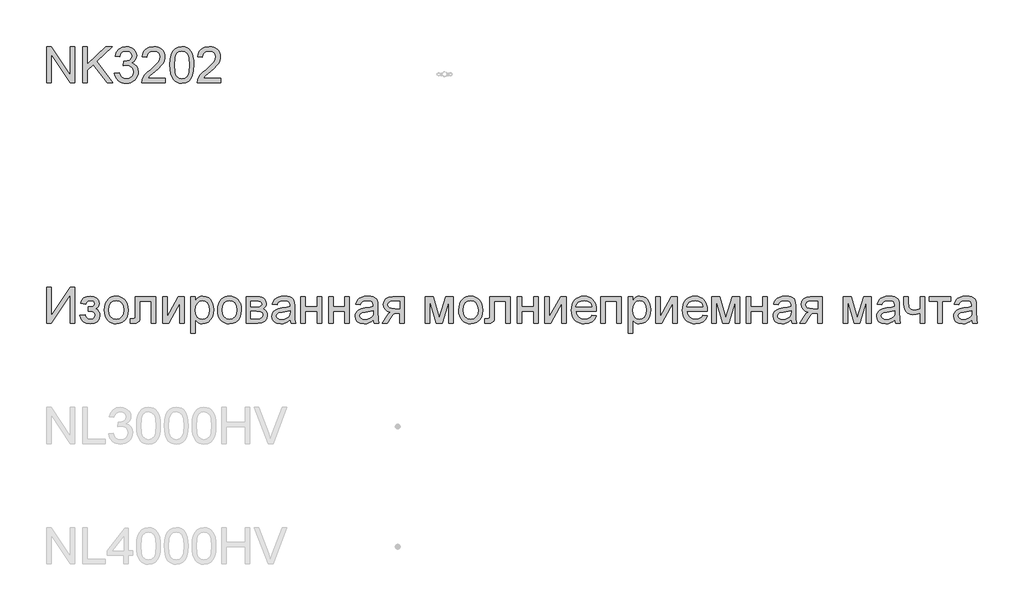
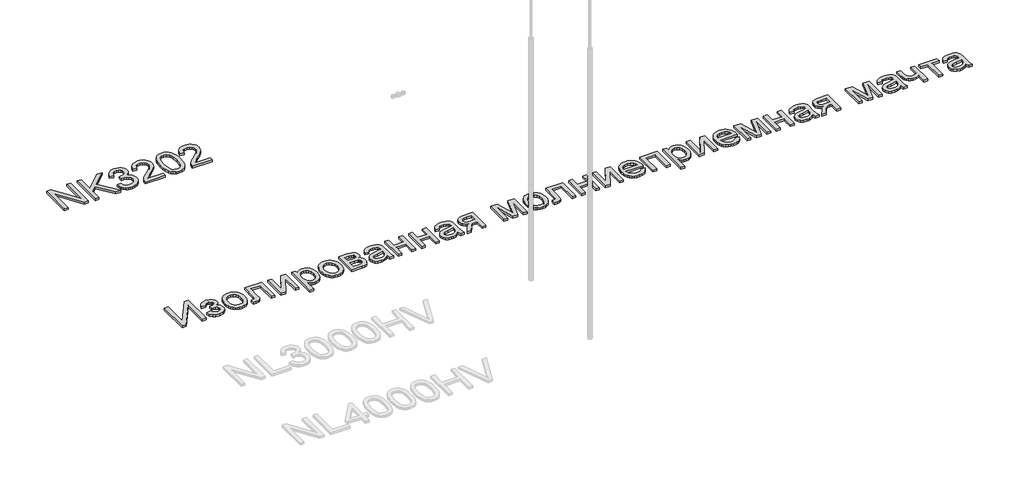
# One storey, part 9 of 124: 2 proxies.
"""IFC4 building model written with IfcOpenShell, lengths in millimetres."""

from ifc_helpers import new_model, si_unit, origin, origin_with_axes, place, context, project, spatial, polyline, outline, extrude, element, save

model = new_model("IFC4")

# Units and contexts
model_context = context("Model", 3, world=origin())
ifc_project = project(units=[si_unit("LENGTHUNIT", "METRE", prefix="MILLI")], contexts=[model_context])

# Site, building, storey
site = spatial("IfcSite", under=ifc_project)
building = spatial("IfcBuilding", under=site)
storey = spatial("IfcBuildingStorey", under=building, Name="Этаж 01", Elevation=0.0)

# Proxies
placement = place(None, origin())
element("IfcBuildingElementProxy", 1, Name="300", ObjectType="300", at=placement, inside=storey, context=model_context, shape_type="SweptSolid", body=[
    extrude(outline(polyline([(1299.8220677, -115548.8731539), (1299.8220677, -115247.5042234), (1340.1419344, -115247.5042234), (1497.5954283, -115486.2596383), (1497.5954283, -115247.5042234), (1535.2665446, -115247.5042234), (1535.2665446, -115548.8731539), (1494.9466779, -115548.8731539), (1337.493184, -115310.0441626), (1337.493184, -115548.8731539), (1299.8220677, -115548.8731539)])), origin_with_axes(), (0.0, 0.0, 1.0), 20.0),
    extrude(outline(polyline([(1601.1909981, -115548.8731539), (1601.1909981, -115247.5042234), (1638.8621144, -115247.5042234), (1638.8621144, -115395.0249035), (1793.3725524, -115247.5042234), (1846.0532541, -115247.5042234), (1716.3380626, -115371.4068794), (1850.7621437, -115548.8731539), (1804.7033179, -115548.8731539), (1689.6298298, -115396.8643135), (1638.8621144, -115445.277584), (1638.8621144, -115548.8731539), (1601.1909981, -115548.8731539)])), origin_with_axes(), (0.0, 0.0, 1.0), 20.0),
    extrude(outline(polyline([(1864.8888123, -115468.8220317), (1902.5599286, -115464.1131422), (1910.9936233, -115487.7863486), (1923.3452613, -115503.7708213), (1940.2218478, -115512.8759007), (1962.2303882, -115515.9109271), (1988.0557043, -115511.7354665), (2007.9949084, -115499.2090845), (2020.7420195, -115480.5206792), (2024.9910566, -115457.8591483), (2020.7788077, -115436.3472486), (2008.1420612, -115418.900445), (1989.0121975, -115407.3397533), (1965.320597, -115403.4861894), (1938.9066697, -115407.6064677), (1943.1005245, -115369.9353514), (1949.1337892, -115370.3768098), (1971.7033496, -115367.6728772), (1991.881677, -115359.5610792), (2006.1187102, -115345.8390807), (2010.864388, -115326.3045468), (2007.4246913, -115310.0349656), (1997.1056014, -115296.837199), (1981.360252, -115288.0908046), (1961.641777, -115285.1753397), (1941.8865139, -115288.1183957), (1925.7364943, -115296.9475636), (1913.9458763, -115311.6628434), (1907.2688181, -115332.2642351), (1869.5977018, -115327.5553456), (1880.689344, -115293.7285961), (1900.426213, -115268.4734972), (1927.4287515, -115252.7465419), (1960.3174018, -115247.5042234), (1983.9998053, -115250.0885945), (2005.7508282, -115257.8417075), (2024.0897457, -115270.0737838), (2037.5358326, -115286.0950447), (2045.7855864, -115304.5535238), (2048.5355043, -115324.0972548), (2045.9235421, -115342.3074136), (2038.0876556, -115358.8253152), (2025.1382094, -115372.8968015), (2007.185568, -115383.7677145), (2030.7668039, -115393.2958581), (2048.2411987, -115409.5194541), (2059.0569293, -115431.5555856), (2062.6621729, -115458.5213359), (2060.8595511, -115477.6328055), (2055.4516858, -115495.235959), (2046.4385769, -115511.3307963), (2033.8202245, -115525.9173174), (2018.4473556, -115538.020635), (2001.1706974, -115546.6658619), (1981.9902499, -115551.852998), (1960.906013, -115553.5820434), (1941.8497257, -115552.1059169), (1924.4856955, -115547.6775374), (1908.8139225, -115540.2969049), (1894.8344067, -115529.9640193), (1883.1127666, -115517.2858861), (1874.2146209, -115502.8695104), (1868.1399694, -115486.7148923), (1864.8888123, -115468.8220317)])), origin_with_axes(), (0.0, 0.0, 1.0), 20.0),
    extrude(outline(polyline([(2288.6888707, -115511.2020376), (2288.6888707, -115548.8731539), (2090.9155101, -115548.8731539), (2094.9622121, -115522.900685), (2104.2512324, -115502.6027959), (2117.8444722, -115482.9119122), (2137.5077648, -115462.3013234), (2165.006944, -115439.2443193), (2205.6579044, -115403.1367015), (2230.0484807, -115376.4836509), (2242.2437688, -115354.8521896), (2246.3088649, -115333.8093395), (2242.4736951, -115314.9461902), (2230.9681857, -115299.2652202), (2213.2822588, -115288.6978098), (2190.9058364, -115285.1753397), (2167.407374, -115288.6150364), (2149.15123, -115298.9341264), (2137.3698091, -115315.3232692), (2133.295516, -115336.9731247), (2095.6243997, -115332.2642351), (2104.7570702, -115295.8255235), (2113.3034288, -115281.2895862), (2124.5031363, -115269.2092612), (2138.0986753, -115259.7133072), (2153.8325283, -115252.9304829), (2191.7151768, -115247.5042234), (2211.9050005, -115249.0125396), (2229.8737367, -115253.5374882), (2245.6213854, -115261.0790691), (2259.1479465, -115271.6372823), (2270.0119617, -115284.4303787), (2277.7719725, -115298.676609), (2282.427979, -115314.3759731), (2283.9799812, -115331.5284711), (2282.3061181, -115349.5454918), (2277.2845289, -115367.2498129), (2268.3725875, -115385.2576365), (2255.0276682, -115404.1851652), (2233.7548918, -115426.7823167), (2201.0593795, -115455.7990091), (2157.7228804, -115492.0353856), (2140.7267323, -115511.2020376), (2288.6888707, -115511.2020376)])), origin_with_axes(), (0.0, 0.0, 1.0), 20.0),
    extrude(outline(polyline([(2326.359987, -115400.6167098), (2329.128299, -115352.3781832), (2337.4332351, -115313.9069236), (2351.1920217, -115284.6143197), (2370.3218855, -115263.9117604), (2394.9607821, -115251.6061077), (2425.2466673, -115247.5042234), (2448.4600212, -115249.9322446), (2469.245354, -115257.2163081), (2486.6277782, -115269.0713054), (2499.6324068, -115285.2121279), (2509.454856, -115305.50082), (2517.2907425, -115329.7994258), (2522.4226964, -115360.6555281), (2524.1333476, -115400.6167098), (2521.3926268, -115448.579325), (2513.1704642, -115486.9586141), (2499.494451, -115516.2788091), (2480.3921784, -115537.0641418), (2455.6980995, -115549.452568), (2425.2466673, -115553.5820434), (2404.4981228, -115551.7886187), (2386.1040231, -115546.4083445), (2370.0643681, -115537.4412209), (2356.3791578, -115524.8872478), (2343.2457706, -115502.1935272), (2333.8647797, -115473.9171974), (2328.2361852, -115440.0582582), (2326.359987, -115400.6167098)]), holes=[polyline([(2364.0311033, -115400.5431334), (2368.4456873, -115459.7997258), (2373.9639172, -115480.0677245), (2381.6894391, -115494.0955248), (2401.4079141, -115510.4570765), (2425.2466673, -115515.9109271), (2449.0854206, -115510.4386824), (2468.8038956, -115494.0219484), (2476.5294175, -115479.9711555), (2482.0476474, -115459.7077553), (2486.4622313, -115400.5431334), (2482.1948002, -115342.6201133), (2476.8605113, -115322.4187932), (2469.3925068, -115308.0575998), (2449.71082, -115290.8959048), (2424.8052089, -115285.1753397), (2401.2239731, -115290.2153231), (2382.2780503, -115305.3352731), (2374.295011, -115320.9702579), (2368.5928401, -115342.0498962), (2364.0311033, -115400.5431334)])]), origin_with_axes(), (0.0, 0.0, 1.0), 20.0),
    extrude(outline(polyline([(2750.1600455, -115511.2020376), (2750.1600455, -115548.8731539), (2552.3866849, -115548.8731539), (2556.4333868, -115522.900685), (2565.7224072, -115502.6027959), (2579.3156469, -115482.9119122), (2598.9789396, -115462.3013234), (2626.4781187, -115439.2443193), (2667.1290792, -115403.1367015), (2691.5196554, -115376.4836509), (2703.7149436, -115354.8521896), (2707.7800396, -115333.8093395), (2703.9448698, -115314.9461902), (2692.4393604, -115299.2652202), (2674.7534335, -115288.6978098), (2652.3770112, -115285.1753397), (2628.8785487, -115288.6150364), (2610.6224047, -115298.9341264), (2598.8409838, -115315.3232692), (2594.7666907, -115336.9731247), (2557.0955744, -115332.2642351), (2566.2282449, -115295.8255235), (2574.7746035, -115281.2895862), (2585.974311, -115269.2092612), (2599.56985, -115259.7133072), (2615.3037031, -115252.9304829), (2653.1863516, -115247.5042234), (2673.3761753, -115249.0125396), (2691.3449115, -115253.5374882), (2707.0925602, -115261.0790691), (2720.6191213, -115271.6372823), (2731.4831364, -115284.4303787), (2739.2431473, -115298.676609), (2743.8991538, -115314.3759731), (2745.4511559, -115331.5284711), (2743.7772929, -115349.5454918), (2738.7557036, -115367.2498129), (2729.8437623, -115385.2576365), (2716.4988429, -115404.1851652), (2695.2260665, -115426.7823167), (2662.5305542, -115455.7990091), (2619.1940552, -115492.0353856), (2602.197907, -115511.2020376), (2750.1600455, -115511.2020376)])), origin_with_axes(), (0.0, 0.0, 1.0), 20.0),
])
element("IfcBuildingElementProxy", 2, Name="300", ObjectType="300", at=placement, inside=storey, context=model_context, shape_type="SweptSolid", body=[
    extrude(outline(polyline([(1299.8220677, -117247.5042234), (1337.493184, -117247.5042234), (1337.493184, -117486.1860619), (1495.2409835, -117247.5042234), (1535.2665446, -117247.5042234), (1535.2665446, -117548.8731539), (1497.5954283, -117548.8731539), (1497.5954283, -117310.853503), (1340.2155108, -117548.8731539), (1299.8220677, -117548.8731539), (1299.8220677, -117247.5042234)])), origin_with_axes(), (0.0, 0.0, 1.0), 20.0),
    extrude(outline(polyline([(1648.2798935, -117449.9864736), (1648.2798935, -117412.3153573), (1678.0047587, -117410.8438293), (1693.0143441, -117403.0079428), (1698.3118449, -117395.6594999), (1700.0776784, -117386.637194), (1697.7140366, -117375.9226309), (1690.6231112, -117367.6176949), (1679.7981835, -117362.292603), (1666.2325349, -117360.5175724), (1652.5197335, -117362.2834059), (1641.0326182, -117367.5809067), (1631.771189, -117376.4100745), (1624.7354458, -117388.7709096), (1582.35544, -117384.06202), (1593.5942349, -117357.2802108), (1610.6823536, -117338.150347), (1633.619796, -117326.6724288), (1662.4065621, -117322.846456), (1693.8972609, -117327.5093603), (1717.7360142, -117341.4980732), (1732.7455996, -117361.9615092), (1737.7487948, -117386.0485828), (1735.9691656, -117398.4094179), (1730.6302781, -117409.4458777), (1721.7321324, -117419.1579624), (1709.2747283, -117427.5456719), (1723.8152642, -117438.0119146), (1734.1803394, -117451.0165432), (1740.3883481, -117466.5963457), (1742.4576843, -117484.7881103), (1737.2061688, -117512.5172157), (1721.4516224, -117534.4889679), (1696.2609027, -117548.8087745), (1662.7008677, -117553.5820434), (1629.8765967, -117549.1674595), (1604.7594535, -117535.9237077), (1587.3494381, -117513.8507879), (1577.6465505, -117482.9487003), (1620.0265563, -117478.2398108), (1626.3725207, -117494.1691012), (1637.0227045, -117506.0516896), (1650.7447029, -117513.4461177), (1666.3061113, -117515.9109271), (1681.4628495, -117513.5472853), (1693.8236845, -117506.4563598), (1702.0458471, -117495.6866144), (1704.786568, -117482.2865128), (1703.0851138, -117471.6731172), (1697.9807511, -117462.4944614), (1683.4862005, -117451.89946), (1655.6375334, -117449.7657444), (1648.2798935, -117449.9864736)])), origin_with_axes(), (0.0, 0.0, 1.0), 20.0),
    extrude(outline(polyline([(1780.1288006, -117438.2142497), (1782.1659471, -117409.5516438), (1788.2773868, -117384.8529663), (1798.4631195, -117364.1182174), (1812.7231454, -117347.3473969), (1827.0797402, -117336.6282353), (1842.9262572, -117328.9716913), (1860.2626962, -117324.3777649), (1879.0890573, -117322.846456), (1899.8720908, -117324.7111579), (1918.6639629, -117330.3052635), (1935.4646738, -117339.6287728), (1950.2742234, -117352.6816859), (1962.3614462, -117369.0225442), (1970.9951767, -117388.2098895), (1976.1754151, -117410.2437218), (1977.9021612, -117435.124041), (1974.8487406, -117473.1814334), (1965.688479, -117502.1521405), (1950.6880906, -117523.8479812), (1930.11429, -117540.0807742), (1905.6777285, -117550.2067261), (1879.0890573, -117553.5820434), (1858.0025212, -117551.7242393), (1839.0359051, -117546.1508271), (1822.189209, -117536.8618067), (1807.4624328, -117523.8571782), (1795.5039687, -117507.3576707), (1786.9622087, -117487.5840135), (1781.8371526, -117464.5362065), (1780.1288006, -117438.2142497)]), holes=[polyline([(1817.7999169, -117438.1406733), (1822.1593185, -117472.2341372), (1835.2375235, -117496.523546), (1854.9192102, -117511.0640818), (1879.0890573, -117515.9109271), (1903.1485398, -117511.0364907), (1922.7934383, -117496.4131814), (1935.8716433, -117471.8018759), (1940.2310449, -117436.963451), (1935.8440521, -117403.8632684), (1922.6830737, -117379.9049535), (1903.010584, -117365.3644176), (1879.0890573, -117360.5175724), (1854.9192102, -117365.3460235), (1835.2375235, -117379.8313771), (1822.1593185, -117404.0656035), (1817.7999169, -117438.1406733)])]), origin_with_axes(), (0.0, 0.0, 1.0), 20.0),
    extrude(outline(polyline([(2039.1177252, -117327.5553456), (2208.6377486, -117327.5553456), (2208.6377486, -117548.6524247), (2170.9666323, -117548.6524247), (2170.9666323, -117365.2264619), (2076.7888415, -117365.2264619), (2076.7888415, -117470.8085945), (2074.2504557, -117519.5161707), (2069.495581, -117530.5434335), (2060.3077281, -117540.0807742), (2046.3650005, -117546.675059), (2027.3455014, -117548.8731539), (1996.7377194, -117546.9601675), (1996.7377194, -117511.2020376), (2013.5867147, -117511.2020376), (2030.6196511, -117508.884381), (2037.425468, -117501.5267411), (2039.1177252, -117468.6748789), (2039.1177252, -117327.5553456)])), origin_with_axes(), (0.0, 0.0, 1.0), 20.0),
    extrude(outline(polyline([(2265.144423, -117327.5553456), (2302.8155393, -117327.5553456), (2302.8155393, -117496.339605), (2395.3746493, -117327.5553456), (2444.0822255, -117327.5553456), (2444.0822255, -117548.8731539), (2406.4111092, -117548.8731539), (2406.4111092, -117381.1189641), (2314.4406104, -117548.8731539), (2265.144423, -117548.8731539), (2265.144423, -117327.5553456)])), origin_with_axes(), (0.0, 0.0, 1.0), 20.0),
    extrude(outline(polyline([(2500.5889, -117633.6331656), (2500.5889, -117327.5553456), (2538.2600163, -117327.5553456), (2538.2600163, -117364.4906979), (2550.5472749, -117346.2713421), (2564.3060615, -117333.2575165), (2580.3457165, -117325.4492212), (2599.4755803, -117322.846456), (2624.9514084, -117326.4884878), (2647.2266632, -117337.4145831), (2665.3632456, -117354.9625542), (2678.4230564, -117378.4702137), (2686.3141252, -117406.2269103), (2688.9444815, -117436.5219926), (2685.9738344, -117468.7392583), (2677.061893, -117497.5536156), (2662.493766, -117521.5027334), (2642.5545619, -117539.124281), (2619.3320109, -117549.9676028), (2594.9138435, -117553.5820434), (2577.5957986, -117551.1632193), (2562.1355577, -117543.906747), (2548.901003, -117532.9530605), (2538.2600163, -117519.4425943), (2538.2600163, -117633.6331656), (2500.5889, -117633.6331656)]), holes=[polyline([(2538.2600163, -117439.9800833), (2542.3343094, -117473.7516505), (2554.5571886, -117497.3696746), (2572.5926035, -117511.275614), (2594.1045031, -117515.9109271), (2615.9658907, -117511.1100671), (2634.461158, -117496.707487), (2647.0703134, -117472.2249402), (2651.2733652, -117437.1841801), (2647.1714809, -117403.596554), (2634.8658282, -117379.6474361), (2616.8580045, -117365.3000383), (2595.6496075, -117360.5175724), (2574.358437, -117365.6035409), (2555.6608346, -117380.8614467), (2542.6102208, -117405.813043), (2538.2600163, -117439.9800833)])]), origin_with_axes(), (0.0, 0.0, 1.0), 20.0),
    extrude(outline(polyline([(2721.9067082, -117438.2142497), (2723.9438548, -117409.5516438), (2730.0552944, -117384.8529663), (2740.2410272, -117364.1182174), (2754.501053, -117347.3473969), (2768.8576479, -117336.6282353), (2784.7041648, -117328.9716913), (2802.0406038, -117324.3777649), (2820.866965, -117322.846456), (2841.6499984, -117324.7111579), (2860.4418706, -117330.3052635), (2877.2425815, -117339.6287728), (2892.052131, -117352.6816859), (2904.1393538, -117369.0225442), (2912.7730844, -117388.2098895), (2917.9533227, -117410.2437218), (2919.6800689, -117435.124041), (2916.6266483, -117473.1814334), (2907.4663866, -117502.1521405), (2892.4659983, -117523.8479812), (2871.8921977, -117540.0807742), (2847.4556362, -117550.2067261), (2820.866965, -117553.5820434), (2799.7804288, -117551.7242393), (2780.8138127, -117546.1508271), (2763.9671166, -117536.8618067), (2749.2403405, -117523.8571782), (2737.2818764, -117507.3576707), (2728.7401163, -117487.5840135), (2723.6150603, -117464.5362065), (2721.9067082, -117438.2142497)]), holes=[polyline([(2759.5778246, -117438.1406733), (2763.9372262, -117472.2341372), (2777.0154311, -117496.523546), (2796.6971179, -117511.0640818), (2820.866965, -117515.9109271), (2844.9264474, -117511.0364907), (2864.571346, -117496.4131814), (2877.6495509, -117471.8018759), (2882.0089526, -117436.963451), (2877.6219598, -117403.8632684), (2864.4609814, -117379.9049535), (2844.7884917, -117365.3644176), (2820.866965, -117360.5175724), (2796.6971179, -117365.3460235), (2777.0154311, -117379.8313771), (2763.9372262, -117404.0656035), (2759.5778246, -117438.1406733)])]), origin_with_axes(), (0.0, 0.0, 1.0), 20.0),
    extrude(outline(polyline([(2962.0600747, -117327.5553456), (3045.0542528, -117327.5553456), (3071.7348945, -117328.8153414), (3090.5612556, -117332.5953289), (3104.4120127, -117339.7322396), (3116.1658425, -117351.0630051), (3124.194867, -117365.8242701), (3126.8712085, -117383.2526797), (3125.2525278, -117397.2965748), (3120.3964854, -117409.4090895), (3112.2846874, -117419.645406), (3100.8987397, -117428.0607067), (3114.8414673, -117435.8873961), (3126.2090209, -117448.4781574), (3133.7689959, -117464.8397091), (3136.2889876, -117483.9787699), (3129.906235, -117512.6919597), (3114.7311027, -117532.9070753), (3090.7084084, -117544.8816342), (3057.7829698, -117548.8731539), (2962.0600747, -117548.8731539), (2962.0600747, -117327.5553456)]), holes=[polyline([(2999.731191, -117412.3153573), (3036.9608489, -117412.3153573), (3067.6789955, -117410.4023709), (3082.6150045, -117402.7504254), (3087.5538203, -117396.4228551), (3089.2000922, -117388.9180624), (3086.3122186, -117377.6792674), (3077.6485976, -117370.4503862), (3061.9952187, -117366.532443), (3038.1380713, -117365.2264619), (2999.731191, -117365.2264619), (2999.731191, -117412.3153573)]), polyline([(2999.731191, -117511.2020376), (3045.9371696, -117511.2020376), (3071.1186922, -117509.5005834), (3086.9192239, -117504.3962207), (3095.3989039, -117495.1163973), (3098.6178713, -117480.8885612), (3097.0083876, -117471.4615851), (3092.1799364, -117462.7519788), (3084.7671142, -117455.9369649), (3075.4045174, -117452.1937656), (3042.2583496, -117449.9864736), (2999.731191, -117449.9864736), (2999.731191, -117511.2020376)])]), origin_with_axes(), (0.0, 0.0, 1.0), 20.0),
    extrude(outline(polyline([(3324.6445691, -117520.6198167), (3306.6459425, -117536.0524664), (3288.113887, -117546.1508271), (3268.6253383, -117551.7242393), (3247.7572322, -117553.5820434), (3216.2757304, -117549.1122772), (3193.0531795, -117535.7029785), (3178.7333728, -117515.34071), (3173.9601039, -117490.0120347), (3175.7627257, -117474.395444), (3181.170591, -117460.213593), (3189.5123153, -117448.0734872), (3200.1165138, -117438.5821317), (3226.4936528, -117426.2212967), (3259.0879976, -117420.555914), (3297.6052425, -117414.5962256), (3324.4238399, -117407.6064677), (3324.6445691, -117399.2187582), (3322.0510011, -117382.4065511), (3314.2702969, -117371.4068794), (3296.8694785, -117363.2398991), (3272.626055, -117360.5175724), (3250.1852533, -117362.3293912), (3234.5134803, -117367.7648477), (3223.8265084, -117377.8172232), (3216.3401098, -117393.4797991), (3178.6689935, -117388.7709096), (3185.2080959, -117368.1695179), (3194.9661658, -117351.9827101), (3208.8537112, -117339.6034809), (3227.7812398, -117330.4248251), (3250.9302144, -117324.7410483), (3277.4820974, -117322.846456), (3302.9487285, -117324.5203191), (3323.136253, -117329.5419084), (3338.3573705, -117337.0926863), (3348.9247808, -117346.3541155), (3355.9329328, -117357.8044426), (3360.4762755, -117371.9219142), (3362.3156855, -117404.884141), (3362.3156855, -117451.7523072), (3364.2286718, -117517.1985141), (3371.7334645, -117548.8731539), (3334.0623482, -117548.8731539), (3324.6445691, -117520.6198167)]), holes=[polyline([(3324.6445691, -117445.277584), (3263.8704635, -117456.8290787), (3231.4600598, -117462.9359198), (3216.7815682, -117472.8687337), (3211.6312202, -117487.3632843), (3214.4363204, -117498.565291), (3222.8516211, -117507.7439468), (3236.6931811, -117513.869182), (3255.7770596, -117515.9109271), (3276.0105694, -117513.6576499), (3293.8896343, -117506.8978182), (3308.384185, -117496.9374132), (3318.4641516, -117485.0824159), (3322.9339179, -117472.8687337), (3324.4238399, -117455.9461619), (3324.6445691, -117445.277584)])]), origin_with_axes(), (0.0, 0.0, 1.0), 20.0),
    extrude(outline(polyline([(3414.1134704, -117327.5553456), (3451.7845867, -117327.5553456), (3451.7845867, -117412.3153573), (3550.671267, -117412.3153573), (3550.671267, -117327.5553456), (3588.3423833, -117327.5553456), (3588.3423833, -117548.8731539), (3550.671267, -117548.8731539), (3550.671267, -117449.9864736), (3451.7845867, -117449.9864736), (3451.7845867, -117548.8731539), (3414.1134704, -117548.8731539), (3414.1134704, -117327.5553456)])), origin_with_axes(), (0.0, 0.0, 1.0), 20.0),
    extrude(outline(polyline([(3644.8490577, -117327.5553456), (3682.5201741, -117327.5553456), (3682.5201741, -117412.3153573), (3781.4068544, -117412.3153573), (3781.4068544, -117327.5553456), (3819.0779707, -117327.5553456), (3819.0779707, -117548.8731539), (3781.4068544, -117548.8731539), (3781.4068544, -117449.9864736), (3682.5201741, -117449.9864736), (3682.5201741, -117548.8731539), (3644.8490577, -117548.8731539), (3644.8490577, -117327.5553456)])), origin_with_axes(), (0.0, 0.0, 1.0), 20.0),
    extrude(outline(polyline([(4016.8513313, -117520.6198167), (3998.8527047, -117536.0524664), (3980.3206492, -117546.1508271), (3960.8321005, -117551.7242393), (3939.9639943, -117553.5820434), (3908.4824925, -117549.1122772), (3885.2599416, -117535.7029785), (3870.9401349, -117515.34071), (3866.166866, -117490.0120347), (3867.9694878, -117474.395444), (3873.3773532, -117460.213593), (3881.7190774, -117448.0734872), (3892.3232759, -117438.5821317), (3918.700415, -117426.2212967), (3951.2947597, -117420.555914), (3989.8120046, -117414.5962256), (4016.6306021, -117407.6064677), (4016.8513313, -117399.2187582), (4014.2577632, -117382.4065511), (4006.477059, -117371.4068794), (3989.0762406, -117363.2398991), (3964.8328172, -117360.5175724), (3942.3920154, -117362.3293912), (3926.7202425, -117367.7648477), (3916.0332705, -117377.8172232), (3908.5468719, -117393.4797991), (3870.8757556, -117388.7709096), (3877.414858, -117368.1695179), (3887.172928, -117351.9827101), (3901.0604733, -117339.6034809), (3919.9880019, -117330.4248251), (3943.1369765, -117324.7410483), (3969.6888595, -117322.846456), (3995.1554906, -117324.5203191), (4015.3430151, -117329.5419084), (4030.5641326, -117337.0926863), (4041.131543, -117346.3541155), (4048.139695, -117357.8044426), (4052.6830376, -117371.9219142), (4054.5224476, -117404.884141), (4054.5224476, -117451.7523072), (4056.435434, -117517.1985141), (4063.9402267, -117548.8731539), (4026.2691103, -117548.8731539), (4016.8513313, -117520.6198167)]), holes=[polyline([(4016.8513313, -117445.277584), (3956.0772257, -117456.8290787), (3923.6668219, -117462.9359198), (3908.9883303, -117472.8687337), (3903.8379824, -117487.3632843), (3906.6430826, -117498.565291), (3915.0583832, -117507.7439468), (3928.8999433, -117513.869182), (3947.9838218, -117515.9109271), (3968.2173315, -117513.6576499), (3986.0963965, -117506.8978182), (4000.5909471, -117496.9374132), (4010.6709138, -117485.0824159), (4015.14068, -117472.8687337), (4016.6306021, -117455.9461619), (4016.8513313, -117445.277584)])]), origin_with_axes(), (0.0, 0.0, 1.0), 20.0),
    extrude(outline(polyline([(4275.8402559, -117327.5553456), (4275.8402559, -117548.8731539), (4238.1691396, -117548.8731539), (4238.1691396, -117464.1131422), (4217.6413242, -117464.1131422), (4189.6822926, -117468.8956081), (4178.5170741, -117479.3250627), (4163.4155181, -117501.0484945), (4133.3963473, -117548.8731539), (4089.8391191, -117548.8731539), (4127.6573882, -117488.3933539), (4144.3592308, -117466.6883162), (4159.7366982, -117457.0498079), (4133.9849585, -117449.1587391), (4115.8851644, -117434.1675478), (4105.1797983, -117414.2283437), (4101.611343, -117391.4932363), (4106.4857794, -117365.7047085), (4121.1090887, -117345.2872578), (4144.9662361, -117331.9883236), (4177.5421868, -117327.5553456), (4275.8402559, -117327.5553456)]), holes=[polyline([(4238.1691396, -117365.2264619), (4188.5050702, -117365.2264619), (4162.8544981, -117367.4061627), (4148.2955681, -117373.9452652), (4141.5357365, -117383.4090295), (4139.2824593, -117394.3627159), (4142.6025943, -117408.7193108), (4152.5629993, -117418.6797158), (4170.9662961, -117424.5014484), (4199.6151065, -117426.4420259), (4238.1691396, -117426.4420259), (4238.1691396, -117365.2264619)])]), origin_with_axes(), (0.0, 0.0, 1.0), 20.0),
    extrude(outline(polyline([(4450.0691688, -117327.5553456), (4514.8899763, -117327.5553456), (4564.8483513, -117504.7273145), (4618.7062754, -117327.5553456), (4680.8047562, -117327.5553456), (4680.8047562, -117548.8731539), (4643.1336399, -117548.8731539), (4643.1336399, -117370.6711154), (4588.9814102, -117548.8731539), (4539.53807, -117548.8731539), (4487.7402851, -117362.1362531), (4487.7402851, -117548.8731539), (4450.0691688, -117548.8731539), (4450.0691688, -117327.5553456)])), origin_with_axes(), (0.0, 0.0, 1.0), 20.0),
    extrude(outline(polyline([(4727.8936515, -117438.2142497), (4729.9307981, -117409.5516438), (4736.0422377, -117384.8529663), (4746.2279705, -117364.1182174), (4760.4879963, -117347.3473969), (4774.8445912, -117336.6282353), (4790.6911081, -117328.9716913), (4808.0275471, -117324.3777649), (4826.8539083, -117322.846456), (4847.6369417, -117324.7111579), (4866.4288139, -117330.3052635), (4883.2295248, -117339.6287728), (4898.0390743, -117352.6816859), (4910.1262971, -117369.0225442), (4918.7600277, -117388.2098895), (4923.940266, -117410.2437218), (4925.6670122, -117435.124041), (4922.6135916, -117473.1814334), (4913.4533299, -117502.1521405), (4898.4529416, -117523.8479812), (4877.879141, -117540.0807742), (4853.4425795, -117550.2067261), (4826.8539083, -117553.5820434), (4805.7673721, -117551.7242393), (4786.800756, -117546.1508271), (4769.9540599, -117536.8618067), (4755.2272838, -117523.8571782), (4743.2688197, -117507.3576707), (4734.7270596, -117487.5840135), (4729.6020036, -117464.5362065), (4727.8936515, -117438.2142497)]), holes=[polyline([(4765.5647679, -117438.1406733), (4769.9241695, -117472.2341372), (4783.0023744, -117496.523546), (4802.6840612, -117511.0640818), (4826.8539083, -117515.9109271), (4850.9133907, -117511.0364907), (4870.5582893, -117496.4131814), (4883.6364942, -117471.8018759), (4887.9958959, -117436.963451), (4883.6089031, -117403.8632684), (4870.4479247, -117379.9049535), (4850.775435, -117365.3644176), (4826.8539083, -117360.5175724), (4802.6840612, -117365.3460235), (4783.0023744, -117379.8313771), (4769.9241695, -117404.0656035), (4765.5647679, -117438.1406733)])]), origin_with_axes(), (0.0, 0.0, 1.0), 20.0),
    extrude(outline(polyline([(4986.8825762, -117327.5553456), (5156.4025995, -117327.5553456), (5156.4025995, -117548.6524247), (5118.7314832, -117548.6524247), (5118.7314832, -117365.2264619), (5024.5536925, -117365.2264619), (5024.5536925, -117470.8085945), (5022.0153067, -117519.5161707), (5017.2604319, -117530.5434335), (5008.0725791, -117540.0807742), (4994.1298515, -117546.675059), (4975.1103523, -117548.8731539), (4944.5025703, -117546.9601675), (4944.5025703, -117511.2020376), (4961.3515657, -117511.2020376), (4978.3845021, -117508.884381), (4985.190319, -117501.5267411), (4986.8825762, -117468.6748789), (4986.8825762, -117327.5553456)])), origin_with_axes(), (0.0, 0.0, 1.0), 20.0),
    extrude(outline(polyline([(5212.909274, -117327.5553456), (5250.5803903, -117327.5553456), (5250.5803903, -117412.3153573), (5349.4670706, -117412.3153573), (5349.4670706, -117327.5553456), (5387.1381869, -117327.5553456), (5387.1381869, -117548.8731539), (5349.4670706, -117548.8731539), (5349.4670706, -117449.9864736), (5250.5803903, -117449.9864736), (5250.5803903, -117548.8731539), (5212.909274, -117548.8731539), (5212.909274, -117327.5553456)])), origin_with_axes(), (0.0, 0.0, 1.0), 20.0),
    extrude(outline(polyline([(5443.6448614, -117327.5553456), (5481.3159777, -117327.5553456), (5481.3159777, -117496.339605), (5573.8750877, -117327.5553456), (5622.5826638, -117327.5553456), (5622.5826638, -117548.8731539), (5584.9115475, -117548.8731539), (5584.9115475, -117381.1189641), (5492.9410487, -117548.8731539), (5443.6448614, -117548.8731539), (5443.6448614, -117327.5553456)])), origin_with_axes(), (0.0, 0.0, 1.0), 20.0),
    extrude(outline(polyline([(5834.0412346, -117482.9487003), (5870.976587, -117487.6575899), (5857.6684558, -117515.4878628), (5836.4324676, -117536.2915897), (5807.746869, -117549.25943), (5772.0899067, -117553.5820434), (5748.7156044, -117551.7173416), (5727.8888849, -117546.123236), (5709.6097483, -117536.7997267), (5693.8781945, -117523.7468136), (5681.2276524, -117507.3277803), (5672.1915509, -117487.9059102), (5666.76989, -117465.4812034), (5664.9626697, -117440.0536597), (5666.7882841, -117413.7638926), (5672.2651273, -117390.5919255), (5681.3931993, -117370.5377582), (5694.1725001, -117353.6013908), (5709.8626672, -117340.1461069), (5727.723338, -117330.5351897), (5747.7545127, -117324.7686395), (5769.9561911, -117322.846456), (5791.4427989, -117324.7640409), (5810.873866, -117330.5167956), (5828.2493925, -117340.1047201), (5843.5693783, -117353.5278144), (5856.0750669, -117370.4273936), (5865.0077016, -117390.4447727), (5870.3672824, -117413.5799516), (5872.1538093, -117439.8329305), (5871.9330801, -117449.9864736), (5702.633786, -117449.9864736), (5709.1544943, -117478.1846285), (5724.3020355, -117498.9147789), (5746.163423, -117511.6618901), (5772.8256706, -117515.9109271), (5792.8752394, -117513.9427584), (5809.761023, -117508.0382524), (5823.4830214, -117497.8295271), (5834.0412346, -117482.9487003)]), holes=[polyline([(5702.633786, -117412.3153573), (5834.482693, -117412.3153573), (5829.3875274, -117392.4129413), (5819.3995312, -117378.1759081), (5797.4369761, -117364.9321563), (5769.8090383, -117360.5175724), (5744.4159836, -117364.0400425), (5723.4191187, -117374.6074528), (5708.8234005, -117391.0793691), (5702.633786, -117412.3153573)])]), origin_with_axes(), (0.0, 0.0, 1.0), 20.0),
    extrude(outline(polyline([(5909.8249257, -117327.5553456), (6079.344949, -117327.5553456), (6079.344949, -117548.8731539), (6041.6738327, -117548.8731539), (6041.6738327, -117365.2264619), (5947.496042, -117365.2264619), (5947.496042, -117548.8731539), (5909.8249257, -117548.8731539), (5909.8249257, -117327.5553456)])), origin_with_axes(), (0.0, 0.0, 1.0), 20.0),
    extrude(outline(polyline([(6135.8516235, -117633.6331656), (6135.8516235, -117327.5553456), (6173.5227398, -117327.5553456), (6173.5227398, -117364.4906979), (6185.8099984, -117346.2713421), (6199.5687851, -117333.2575165), (6215.60844, -117325.4492212), (6234.7383038, -117322.846456), (6260.214132, -117326.4884878), (6282.4893868, -117337.4145831), (6300.6259691, -117354.9625542), (6313.68578, -117378.4702137), (6321.5768488, -117406.2269103), (6324.207205, -117436.5219926), (6321.2365579, -117468.7392583), (6312.3246166, -117497.5536156), (6297.7564896, -117521.5027334), (6277.8172854, -117539.124281), (6254.5947345, -117549.9676028), (6230.1765671, -117553.5820434), (6212.8585221, -117551.1632193), (6197.3982813, -117543.906747), (6184.1637265, -117532.9530605), (6173.5227398, -117519.4425943), (6173.5227398, -117633.6331656), (6135.8516235, -117633.6331656)]), holes=[polyline([(6173.5227398, -117439.9800833), (6177.5970329, -117473.7516505), (6189.8199122, -117497.3696746), (6207.855327, -117511.275614), (6229.3672267, -117515.9109271), (6251.2286142, -117511.1100671), (6269.7238815, -117496.707487), (6282.3330369, -117472.2249402), (6286.5360887, -117437.1841801), (6282.4342045, -117403.596554), (6270.1285517, -117379.6474361), (6252.1207281, -117365.3000383), (6230.912331, -117360.5175724), (6209.6211606, -117365.6035409), (6190.9235582, -117380.8614467), (6177.8729444, -117405.813043), (6173.5227398, -117439.9800833)])]), origin_with_axes(), (0.0, 0.0, 1.0), 20.0),
    extrude(outline(polyline([(6366.5872109, -117327.5553456), (6404.2583272, -117327.5553456), (6404.2583272, -117496.339605), (6496.8174372, -117327.5553456), (6545.5250133, -117327.5553456), (6545.5250133, -117548.8731539), (6507.853897, -117548.8731539), (6507.853897, -117381.1189641), (6415.8833982, -117548.8731539), (6366.5872109, -117548.8731539), (6366.5872109, -117327.5553456)])), origin_with_axes(), (0.0, 0.0, 1.0), 20.0),
    extrude(outline(polyline([(6756.9835841, -117482.9487003), (6793.9189365, -117487.6575899), (6780.6108053, -117515.4878628), (6759.3748171, -117536.2915897), (6730.6892185, -117549.25943), (6695.0322562, -117553.5820434), (6671.6579539, -117551.7173416), (6650.8312344, -117546.123236), (6632.5520978, -117536.7997267), (6616.820544, -117523.7468136), (6604.1700019, -117507.3277803), (6595.1339004, -117487.9059102), (6589.7122395, -117465.4812034), (6587.9050192, -117440.0536597), (6589.7306336, -117413.7638926), (6595.2074768, -117390.5919255), (6604.3355488, -117370.5377582), (6617.1148496, -117353.6013908), (6632.8050167, -117340.1461069), (6650.6656875, -117330.5351897), (6670.6968622, -117324.7686395), (6692.8985406, -117322.846456), (6714.3851484, -117324.7640409), (6733.8162155, -117330.5167956), (6751.191742, -117340.1047201), (6766.5117278, -117353.5278144), (6779.0174164, -117370.4273936), (6787.9500511, -117390.4447727), (6793.3096319, -117413.5799516), (6795.0961588, -117439.8329305), (6794.8754296, -117449.9864736), (6625.5761355, -117449.9864736), (6632.0968438, -117478.1846285), (6647.244385, -117498.9147789), (6669.1057725, -117511.6618901), (6695.7680201, -117515.9109271), (6715.8175889, -117513.9427584), (6732.7033725, -117508.0382524), (6746.4253709, -117497.8295271), (6756.9835841, -117482.9487003)]), holes=[polyline([(6625.5761355, -117412.3153573), (6757.4250425, -117412.3153573), (6752.3298769, -117392.4129413), (6742.3418807, -117378.1759081), (6720.3793256, -117364.9321563), (6692.7513878, -117360.5175724), (6667.3583331, -117364.0400425), (6646.3614682, -117374.6074528), (6631.76575, -117391.0793691), (6625.5761355, -117412.3153573)])]), origin_with_axes(), (0.0, 0.0, 1.0), 20.0),
    extrude(outline(polyline([(6832.7672752, -117327.5553456), (6897.5880827, -117327.5553456), (6947.5464576, -117504.7273145), (7001.4043817, -117327.5553456), (7063.5028625, -117327.5553456), (7063.5028625, -117548.8731539), (7025.8317462, -117548.8731539), (7025.8317462, -117370.6711154), (6971.6795165, -117548.8731539), (6922.2361764, -117548.8731539), (6870.4383915, -117362.1362531), (6870.4383915, -117548.8731539), (6832.7672752, -117548.8731539), (6832.7672752, -117327.5553456)])), origin_with_axes(), (0.0, 0.0, 1.0), 20.0),
    extrude(outline(polyline([(7120.009537, -117327.5553456), (7157.6806533, -117327.5553456), (7157.6806533, -117412.3153573), (7256.5673336, -117412.3153573), (7256.5673336, -117327.5553456), (7294.2384499, -117327.5553456), (7294.2384499, -117548.8731539), (7256.5673336, -117548.8731539), (7256.5673336, -117449.9864736), (7157.6806533, -117449.9864736), (7157.6806533, -117548.8731539), (7120.009537, -117548.8731539), (7120.009537, -117327.5553456)])), origin_with_axes(), (0.0, 0.0, 1.0), 20.0),
    extrude(outline(polyline([(7492.0118105, -117520.6198167), (7474.0131839, -117536.0524664), (7455.4811284, -117546.1508271), (7435.9925797, -117551.7242393), (7415.1244735, -117553.5820434), (7383.6429718, -117549.1122772), (7360.4204208, -117535.7029785), (7346.1006142, -117515.34071), (7341.3273453, -117490.0120347), (7343.1299671, -117474.395444), (7348.5378324, -117460.213593), (7356.8795566, -117448.0734872), (7367.4837551, -117438.5821317), (7393.8608942, -117426.2212967), (7426.455239, -117420.555914), (7464.9724839, -117414.5962256), (7491.7910813, -117407.6064677), (7492.0118105, -117399.2187582), (7489.4182424, -117382.4065511), (7481.6375382, -117371.4068794), (7464.2367199, -117363.2398991), (7439.9932964, -117360.5175724), (7417.5524947, -117362.3293912), (7401.8807217, -117367.7648477), (7391.1937497, -117377.8172232), (7383.7073511, -117393.4797991), (7346.0362348, -117388.7709096), (7352.5753373, -117368.1695179), (7362.3334072, -117351.9827101), (7376.2209525, -117339.6034809), (7395.1484812, -117330.4248251), (7418.2974557, -117324.7410483), (7444.8493387, -117322.846456), (7470.3159698, -117324.5203191), (7490.5034943, -117329.5419084), (7505.7246119, -117337.0926863), (7516.2920222, -117346.3541155), (7523.3001742, -117357.8044426), (7527.8435168, -117371.9219142), (7529.6829268, -117404.884141), (7529.6829268, -117451.7523072), (7531.5959132, -117517.1985141), (7539.1007059, -117548.8731539), (7501.4295896, -117548.8731539), (7492.0118105, -117520.6198167)]), holes=[polyline([(7492.0118105, -117445.277584), (7431.2377049, -117456.8290787), (7398.8273011, -117462.9359198), (7384.1488095, -117472.8687337), (7378.9984616, -117487.3632843), (7381.8035618, -117498.565291), (7390.2188624, -117507.7439468), (7404.0604225, -117513.869182), (7423.144301, -117515.9109271), (7443.3778107, -117513.6576499), (7461.2568757, -117506.8978182), (7475.7514263, -117496.9374132), (7485.831393, -117485.0824159), (7490.3011592, -117472.8687337), (7491.7910813, -117455.9461619), (7492.0118105, -117445.277584)])]), origin_with_axes(), (0.0, 0.0, 1.0), 20.0),
    extrude(outline(polyline([(7751.0007351, -117327.5553456), (7751.0007351, -117548.8731539), (7713.3296188, -117548.8731539), (7713.3296188, -117464.1131422), (7692.8018035, -117464.1131422), (7664.8427718, -117468.8956081), (7653.6775533, -117479.3250627), (7638.5759974, -117501.0484945), (7608.5568266, -117548.8731539), (7564.9995984, -117548.8731539), (7602.8178675, -117488.3933539), (7619.51971, -117466.6883162), (7634.8971774, -117457.0498079), (7609.1454378, -117449.1587391), (7591.0456436, -117434.1675478), (7580.3402776, -117414.2283437), (7576.7718222, -117391.4932363), (7581.6462586, -117365.7047085), (7596.2695679, -117345.2872578), (7620.1267153, -117331.9883236), (7652.702666, -117327.5553456), (7751.0007351, -117327.5553456)]), holes=[polyline([(7713.3296188, -117365.2264619), (7663.6655495, -117365.2264619), (7638.0149773, -117367.4061627), (7623.4560474, -117373.9452652), (7616.6962157, -117383.4090295), (7614.4429385, -117394.3627159), (7617.7630735, -117408.7193108), (7627.7234785, -117418.6797158), (7646.1267753, -117424.5014484), (7674.7755857, -117426.4420259), (7713.3296188, -117426.4420259), (7713.3296188, -117365.2264619)])]), origin_with_axes(), (0.0, 0.0, 1.0), 20.0),
    extrude(outline(polyline([(7925.229648, -117327.5553456), (7990.0504556, -117327.5553456), (8040.0088305, -117504.7273145), (8093.8667546, -117327.5553456), (8155.9652354, -117327.5553456), (8155.9652354, -117548.8731539), (8118.2941191, -117548.8731539), (8118.2941191, -117370.6711154), (8064.1418894, -117548.8731539), (8014.6985493, -117548.8731539), (7962.9007643, -117362.1362531), (7962.9007643, -117548.8731539), (7925.229648, -117548.8731539), (7925.229648, -117327.5553456)])), origin_with_axes(), (0.0, 0.0, 1.0), 20.0),
    extrude(outline(polyline([(8353.738596, -117520.6198167), (8335.7399694, -117536.0524664), (8317.2079139, -117546.1508271), (8297.7193652, -117551.7242393), (8276.851259, -117553.5820434), (8245.3697573, -117549.1122772), (8222.1472063, -117535.7029785), (8207.8273997, -117515.34071), (8203.0541308, -117490.0120347), (8204.8567526, -117474.395444), (8210.2646179, -117460.213593), (8218.6063421, -117448.0734872), (8229.2105406, -117438.5821317), (8255.5876797, -117426.2212967), (8288.1820245, -117420.555914), (8326.6992694, -117414.5962256), (8353.5178668, -117407.6064677), (8353.738596, -117399.2187582), (8351.1450279, -117382.4065511), (8343.3643237, -117371.4068794), (8325.9635054, -117363.2398991), (8301.7200819, -117360.5175724), (8279.2792802, -117362.3293912), (8263.6075072, -117367.7648477), (8252.9205352, -117377.8172232), (8245.4341366, -117393.4797991), (8207.7630203, -117388.7709096), (8214.3021228, -117368.1695179), (8224.0601927, -117351.9827101), (8237.947738, -117339.6034809), (8256.8752667, -117330.4248251), (8280.0242412, -117324.7410483), (8306.5761242, -117322.846456), (8332.0427553, -117324.5203191), (8352.2302798, -117329.5419084), (8367.4513974, -117337.0926863), (8378.0188077, -117346.3541155), (8385.0269597, -117357.8044426), (8389.5703023, -117371.9219142), (8391.4097123, -117404.884141), (8391.4097123, -117451.7523072), (8393.3226987, -117517.1985141), (8400.8274914, -117548.8731539), (8363.1563751, -117548.8731539), (8353.738596, -117520.6198167)]), holes=[polyline([(8353.738596, -117445.277584), (8292.9644904, -117456.8290787), (8260.5540866, -117462.9359198), (8245.875595, -117472.8687337), (8240.7252471, -117487.3632843), (8243.5303473, -117498.565291), (8251.9456479, -117507.7439468), (8265.787208, -117513.869182), (8284.8710865, -117515.9109271), (8305.1045962, -117513.6576499), (8322.9836612, -117506.8978182), (8337.4782118, -117496.9374132), (8347.5581785, -117485.0824159), (8352.0279447, -117472.8687337), (8353.5178668, -117455.9461619), (8353.738596, -117445.277584)])]), origin_with_axes(), (0.0, 0.0, 1.0), 20.0),
    extrude(outline(polyline([(8429.0808286, -117327.5553456), (8466.7519449, -117327.5553456), (8466.7519449, -117370.0089278), (8469.8053655, -117409.8137597), (8475.0016987, -117421.3836485), (8484.4838571, -117431.3716446), (8497.5804561, -117438.269432), (8513.6201111, -117440.5686945), (8536.6679181, -117437.717609), (8565.6386252, -117429.1643527), (8565.6386252, -117327.5553456), (8603.3097415, -117327.5553456), (8603.3097415, -117548.8731539), (8565.6386252, -117548.8731539), (8565.6386252, -117465.2903646), (8533.4857389, -117475.0024493), (8503.5401444, -117478.2398108), (8480.7590519, -117474.8644935), (8460.8290448, -117464.7385416), (8445.2952276, -117449.7197591), (8435.7027045, -117431.6659502), (8430.7362976, -117411.1197408), (8429.0808286, -117388.6237568), (8429.0808286, -117327.5553456)])), origin_with_axes(), (0.0, 0.0, 1.0), 20.0),
    extrude(outline(polyline([(8640.9808578, -117327.5553456), (8819.9186603, -117327.5553456), (8819.9186603, -117365.2264619), (8749.2853172, -117365.2264619), (8749.2853172, -117548.8731539), (8711.6142009, -117548.8731539), (8711.6142009, -117365.2264619), (8640.9808578, -117365.2264619), (8640.9808578, -117327.5553456)])), origin_with_axes(), (0.0, 0.0, 1.0), 20.0),
    extrude(outline(polyline([(8994.1475732, -117520.6198167), (8976.1489466, -117536.0524664), (8957.6168911, -117546.1508271), (8938.1283424, -117551.7242393), (8917.2602362, -117553.5820434), (8885.7787345, -117549.1122772), (8862.5561835, -117535.7029785), (8848.2363769, -117515.34071), (8843.463108, -117490.0120347), (8845.2657298, -117474.395444), (8850.6735951, -117460.213593), (8859.0153193, -117448.0734872), (8869.6195178, -117438.5821317), (8895.9966569, -117426.2212967), (8928.5910017, -117420.555914), (8967.1082466, -117414.5962256), (8993.926844, -117407.6064677), (8994.1475732, -117399.2187582), (8991.5540051, -117382.4065511), (8983.773301, -117371.4068794), (8966.3724826, -117363.2398991), (8942.1290591, -117360.5175724), (8919.6882574, -117362.3293912), (8904.0164844, -117367.7648477), (8893.3295124, -117377.8172232), (8885.8431138, -117393.4797991), (8848.1719975, -117388.7709096), (8854.7111, -117368.1695179), (8864.4691699, -117351.9827101), (8878.3567152, -117339.6034809), (8897.2842439, -117330.4248251), (8920.4332184, -117324.7410483), (8946.9851014, -117322.846456), (8972.4517325, -117324.5203191), (8992.639257, -117329.5419084), (9007.8603746, -117337.0926863), (9018.4277849, -117346.3541155), (9025.4359369, -117357.8044426), (9029.9792795, -117371.9219142), (9031.8186895, -117404.884141), (9031.8186895, -117451.7523072), (9033.7316759, -117517.1985141), (9041.2364686, -117548.8731539), (9003.5653523, -117548.8731539), (8994.1475732, -117520.6198167)]), holes=[polyline([(8994.1475732, -117445.277584), (8933.3734676, -117456.8290787), (8900.9630638, -117462.9359198), (8886.2845722, -117472.8687337), (8881.1342243, -117487.3632843), (8883.9393245, -117498.565291), (8892.3546251, -117507.7439468), (8906.1961852, -117513.869182), (8925.2800637, -117515.9109271), (8945.5135735, -117513.6576499), (8963.3926384, -117506.8978182), (8977.887189, -117496.9374132), (8987.9671557, -117485.0824159), (8992.4369219, -117472.8687337), (8993.926844, -117455.9461619), (8994.1475732, -117445.277584)])]), origin_with_axes(), (0.0, 0.0, 1.0), 20.0),
])

save(model, "model.ifc")
